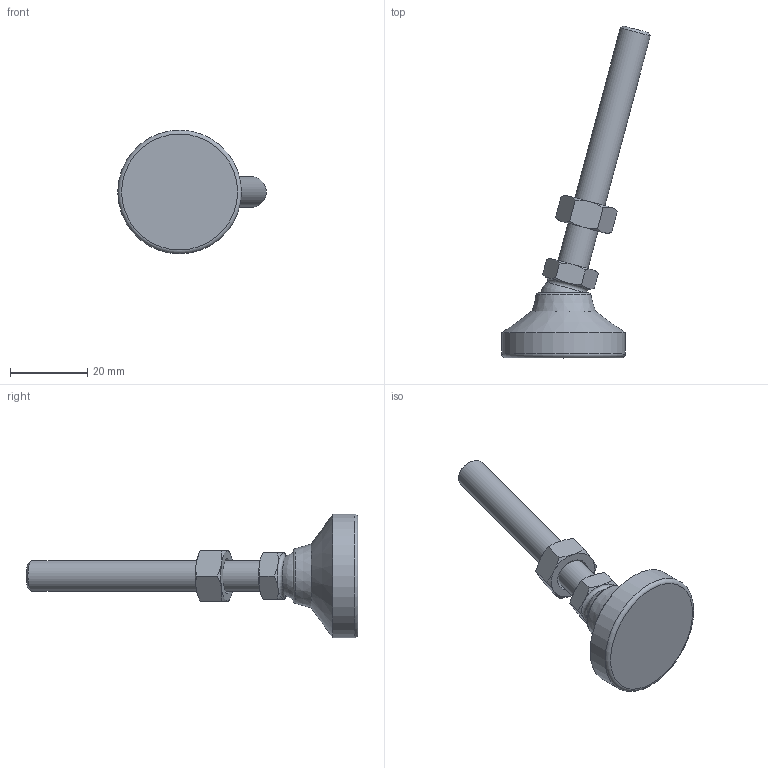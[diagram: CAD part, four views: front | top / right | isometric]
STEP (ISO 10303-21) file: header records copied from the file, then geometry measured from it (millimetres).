
FILE_DESCRIPTION( ( 'STEP AP214' ), ' ' );
FILE_NAME( 'O:/ganter_2015/teil_2/2_5/gn343_2/gn343_2_kre/Levelling foot with threaded stud GN 343.2-32-M8-63-KRE-(-15).stp', '2015-10-26T09:18:30', ( '' ), ( '' ), ' ', 'PARTsolutions', ' ' );
FILE_SCHEMA( ( 'AUTOMOTIVE_DESIGN { 1 0 10303 214 1 1 1 1 }' ) );
Length unit declared in the file: millimetre
Products named in the file (4): Levelling foot with threaded stud GN 343.2-32-M8-63-KRE-(-15); _Levelling foot with threaded stud GN 343.2-32-M8-63-KRE-(-15)_foot; _Levelling foot with threaded stud GN 343.2-32-M8-63-KRE-(-15)_screw; _Levelling foot with threaded stud GN 343.2-32-M8-63-KRE-(-15)_nut
Assembly tree (3 placements, depth 2):
  Levelling foot with threaded stud GN 343.2-32-M8-63-KRE-(-15)
    _Levelling foot with threaded stud GN 343.2-32-M8-63-KRE-(-15)_foot
    _Levelling foot with threaded stud GN 343.2-32-M8-63-KRE-(-15)_screw
    _Levelling foot with threaded stud GN 343.2-32-M8-63-KRE-(-15)_nut
Bounding box: 38.43 x 85.89 x 32 mm (x, y, z)
Volume: 13512.7 mm3; surface area: 5690.5 mm2
Topology: 3 solids, 3 shells, 50 faces, 107 edges, 63 vertices
Faces by surface type: cone 24, plane 18, torus 3, cylinder 3, sphere 2
Full cylindrical faces by diameter (mm): 6.647 x1, 8 x1, 32 x1
Entity records: 1858 total; most frequent: CARTESIAN_POINT 452, DIRECTION 188, ORIENTED_EDGE 176, AXIS2_PLACEMENT_3D 88, EDGE_CURVE 88, EDGE_LOOP 66, VERTEX_POINT 60, FACE_OUTER_BOUND 56
